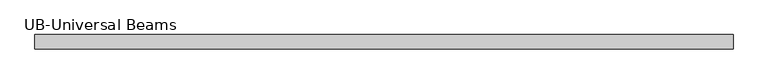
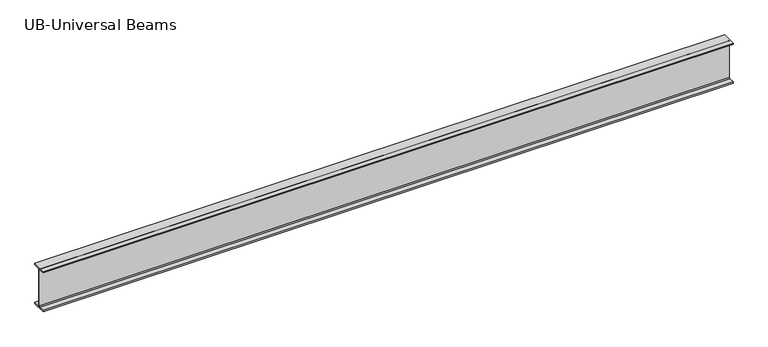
"""IFC4 building model written with IfcOpenShell, lengths in millimetres: beam geometry."""

from ifc_helpers import new_model, si_unit, point, frame, frame_2d, origin, place, context, project, spatial, polyline, circle_curve, trimmed, segment, composite_curve, outline, extrude, source, transform, mapped, element, save


def ub_universal_beams_66b76362(model_context):
    return source(origin(), model_context, "Body", "SweptSolid", [
        extrude(outline(composite_curve([segment(polyline([(76.9, -214.0), (76.9, -229.0), (-76.9, -229.0), (-76.9, -214.0), (-14.7, -214.0)]), True, "CONTINUOUS"), segment(trimmed(circle_curve(frame_2d((-14.7, -203.8)), 10.2), [point((-14.7, -214.0))], [point((-4.5, -203.8))], True, "CARTESIAN"), True, "CONTINUOUS"), segment(polyline([(-4.5, -203.8), (-4.5, 203.8)]), True, "CONTINUOUS"), segment(trimmed(circle_curve(frame_2d((-14.7, 203.8)), 10.2), [point((-4.5, 203.8))], [point((-14.7, 214.0))], True, "CARTESIAN"), True, "CONTINUOUS"), segment(polyline([(-14.7, 214.0), (-76.9, 214.0), (-76.9, 229.0), (76.9, 229.0), (76.9, 214.0), (14.7, 214.0)]), True, "CONTINUOUS"), segment(trimmed(circle_curve(frame_2d((14.7, 203.8)), 10.2), [point((14.7, 214.0))], [point((4.5, 203.8))], True, "CARTESIAN"), True, "CONTINUOUS"), segment(polyline([(4.5, 203.8), (4.5, -203.8)]), True, "CONTINUOUS"), segment(trimmed(circle_curve(frame_2d((14.7, -203.8)), 10.2), [point((4.5, -203.8))], [point((14.7, -214.0))], True, "CARTESIAN"), True, "CONTINUOUS"), segment(polyline([(14.7, -214.0), (76.9, -214.0)]), True, "CONTINUOUS")], self_intersect=False)), frame((-3668.35, 0.0, 0.0), z_axis=(1.0, 0.0, 0.0), x_axis=(0.0, 1.0, 0.0)), (0.0, 0.0, 1.0), 7433.3),
    ])


if __name__ == "__main__":
    model = new_model("IFC4")
    model_context = context("Model", 3, world=origin())
    ifc_project = project(units=[si_unit("LENGTHUNIT", "METRE", prefix="MILLI")], contexts=[model_context])
    site = spatial("IfcSite", under=ifc_project)
    building = spatial("IfcBuilding", under=site)
    placement = place(None, origin())
    ub_universal_beams_shape = ub_universal_beams_66b76362(model_context)
    element("IfcBeam", 1, ObjectType="UB-Universal Beams : UB 18\" x 6\" x 2 1/2\"", at=placement, inside=building, context=model_context, shape_type="MappedRepresentation", body=[
        mapped(ub_universal_beams_shape, transform((0.0, 0.0, 0.0), x_axis=(1.0, 0.0, 0.0), y_axis=(0.0, 1.0, 0.0), z_axis=(0.0, 0.0, 1.0))),
    ])
    save(model, "model.ifc")
